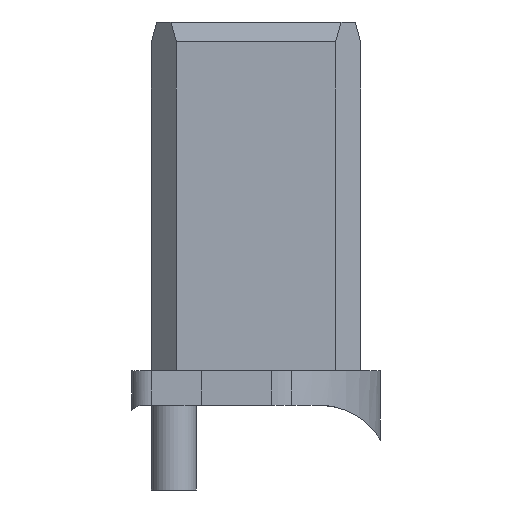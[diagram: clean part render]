
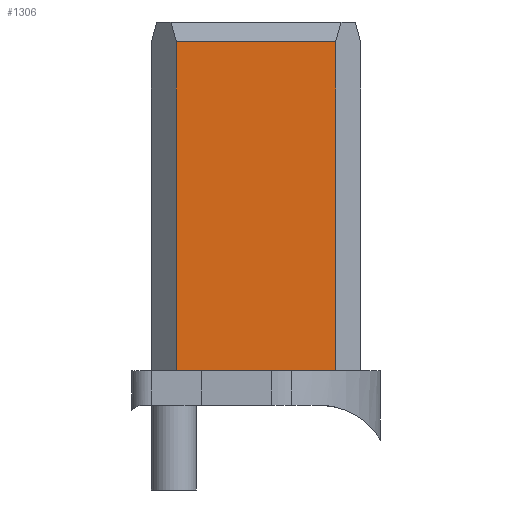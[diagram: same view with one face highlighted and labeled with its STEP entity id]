
A CAD part, left-side view. The second image highlights one B-rep face of the part: STEP entity #1306.
In plain terms, the highlighted planar face has unit normal (-1, 0, 0).
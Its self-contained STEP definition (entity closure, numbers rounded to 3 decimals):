
#31 = EDGE_CURVE ( 'NONE', #630, #1936, #1648, .T. ) ;
#57 = CARTESIAN_POINT ( 'NONE',  ( -10.5, 10.5, 0. ) ) ;
#60 = PLANE ( 'NONE',  #1269 ) ;
#202 = CARTESIAN_POINT ( 'NONE',  ( -10.5, 8., 33. ) ) ;
#228 = DIRECTION ( 'NONE',  ( 1., 0., 0. ) ) ;
#280 = VECTOR ( 'NONE', #1614, 1000. ) ;
#334 = ORIENTED_EDGE ( 'NONE', *, *, #943, .T. ) ;
#378 = LINE ( 'NONE', #407, #1757 ) ;
#407 = CARTESIAN_POINT ( 'NONE',  ( -10.5, 8., 35. ) ) ;
#427 = EDGE_CURVE ( 'NONE', #1936, #445, #1412, .T. ) ;
#442 = CARTESIAN_POINT ( 'NONE',  ( -10.5, -8., 35. ) ) ;
#445 = VERTEX_POINT ( 'NONE', #1260 ) ;
#467 = VECTOR ( 'NONE', #1571, 1000. ) ;
#513 = CARTESIAN_POINT ( 'NONE',  ( -10.5, 10.5, 35. ) ) ;
#579 = CARTESIAN_POINT ( 'NONE',  ( -10.5, 8., 0. ) ) ;
#630 = VERTEX_POINT ( 'NONE', #1498 ) ;
#689 = DIRECTION ( 'NONE',  ( 0., 0., -1. ) ) ;
#690 = EDGE_LOOP ( 'NONE', ( #1645, #1181, #334, #1329 ) ) ;
#943 = EDGE_CURVE ( 'NONE', #445, #1124, #378, .T. ) ;
#1124 = VERTEX_POINT ( 'NONE', #579 ) ;
#1127 = LINE ( 'NONE', #57, #280 ) ;
#1181 = ORIENTED_EDGE ( 'NONE', *, *, #427, .T. ) ;
#1242 = CARTESIAN_POINT ( 'NONE',  ( -10.5, -8., 33. ) ) ;
#1260 = CARTESIAN_POINT ( 'NONE',  ( -10.5, 8., 33. ) ) ;
#1269 = AXIS2_PLACEMENT_3D ( 'NONE', #513, #228, #1577 ) ;
#1306 = ADVANCED_FACE ( 'NONE', ( #1895 ), #60, .F. ) ;
#1329 = ORIENTED_EDGE ( 'NONE', *, *, #1702, .T. ) ;
#1412 = LINE ( 'NONE', #202, #467 ) ;
#1455 = VECTOR ( 'NONE', #1494, 1000. ) ;
#1494 = DIRECTION ( 'NONE',  ( 0., 0., 1. ) ) ;
#1498 = CARTESIAN_POINT ( 'NONE',  ( -10.5, -8., 0. ) ) ;
#1571 = DIRECTION ( 'NONE',  ( 0., 1., 0. ) ) ;
#1577 = DIRECTION ( 'NONE',  ( 0., 1., 0. ) ) ;
#1614 = DIRECTION ( 'NONE',  ( 0., -1., 0. ) ) ;
#1645 = ORIENTED_EDGE ( 'NONE', *, *, #31, .T. ) ;
#1648 = LINE ( 'NONE', #442, #1455 ) ;
#1702 = EDGE_CURVE ( 'NONE', #1124, #630, #1127, .T. ) ;
#1757 = VECTOR ( 'NONE', #689, 1000. ) ;
#1895 = FACE_OUTER_BOUND ( 'NONE', #690, .T. ) ;
#1936 = VERTEX_POINT ( 'NONE', #1242 ) ;
